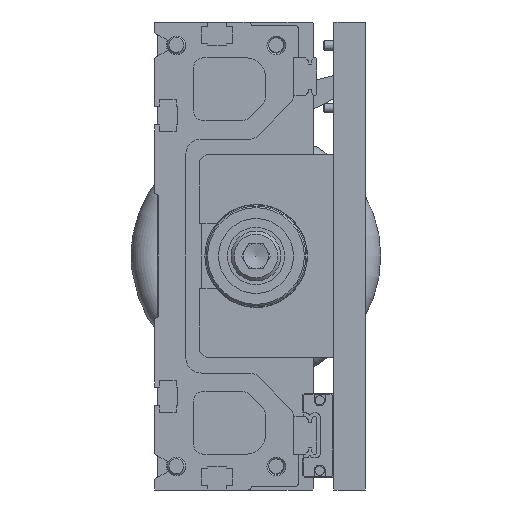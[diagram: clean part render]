
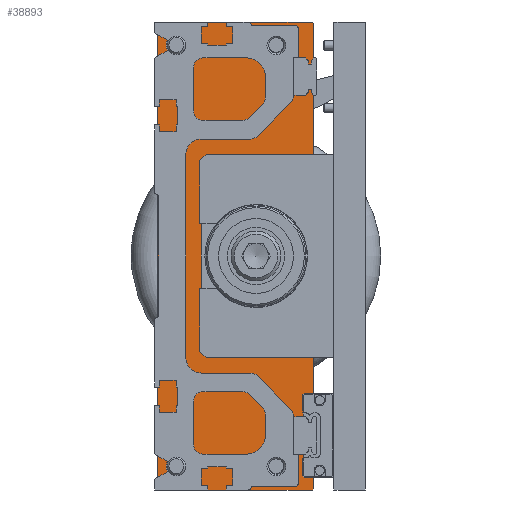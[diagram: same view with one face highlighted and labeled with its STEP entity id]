
A CAD part, front view. The second image highlights one B-rep face of the part: STEP entity #38893.
In plain terms, the highlighted planar face has unit normal (0, -1, 0).
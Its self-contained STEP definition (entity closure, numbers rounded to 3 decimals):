
#38536=CARTESIAN_POINT('',(50.5,85.0,75.0));
#38537=VERTEX_POINT('',#38536);
#38538=CARTESIAN_POINT('',(1.5,85.0,75.0));
#38539=VERTEX_POINT('',#38538);
#38540=CARTESIAN_POINT('',(50.5,85.0,75.0));
#38541=DIRECTION('',(-1.0,0.0,0.0));
#38542=VECTOR('',#38541,1.0);
#38543=LINE('',#38540,#38542);
#38544=EDGE_CURVE('',#38537,#38539,#38543,.T.);
#38576=CARTESIAN_POINT('',(1.0,85.0,74.5));
#38577=VERTEX_POINT('',#38576);
#38578=CARTESIAN_POINT('',(1.5,85.0,75.0));
#38579=DIRECTION('',(-0.707,0.0,-0.707));
#38580=VECTOR('',#38579,1.);
#38581=LINE('',#38578,#38580);
#38582=EDGE_CURVE('',#38539,#38577,#38581,.T.);
#38607=CARTESIAN_POINT('',(51.,85.0,-74.5));
#38608=VERTEX_POINT('',#38607);
#38609=CARTESIAN_POINT('',(51.,85.0,74.5));
#38610=VERTEX_POINT('',#38609);
#38611=CARTESIAN_POINT('',(51.,85.0,-74.5));
#38612=DIRECTION('',(0.0,0.0,1.0));
#38613=VECTOR('',#38612,1.0);
#38614=LINE('',#38611,#38613);
#38615=EDGE_CURVE('',#38608,#38610,#38614,.T.);
#38647=CARTESIAN_POINT('',(51.,85.0,74.5));
#38648=DIRECTION('',(-0.707,0.0,0.707));
#38649=VECTOR('',#38648,1.);
#38650=LINE('',#38647,#38649);
#38651=EDGE_CURVE('',#38610,#38537,#38650,.T.);
#38669=CARTESIAN_POINT('',(50.5,85.0,-75.0));
#38670=VERTEX_POINT('',#38669);
#38671=CARTESIAN_POINT('',(50.5,85.0,-75.0));
#38672=DIRECTION('',(0.707,0.0,0.707));
#38673=VECTOR('',#38672,1.);
#38674=LINE('',#38671,#38673);
#38675=EDGE_CURVE('',#38670,#38608,#38674,.T.);
#38700=CARTESIAN_POINT('',(1.5,85.0,-75.0));
#38701=VERTEX_POINT('',#38700);
#38702=CARTESIAN_POINT('',(1.5,85.0,-75.0));
#38703=DIRECTION('',(1.0,0.0,0.0));
#38704=VECTOR('',#38703,1.0);
#38705=LINE('',#38702,#38704);
#38706=EDGE_CURVE('',#38701,#38670,#38705,.T.);
#38731=CARTESIAN_POINT('',(1.0,85.0,-74.5));
#38732=VERTEX_POINT('',#38731);
#38733=CARTESIAN_POINT('',(1.0,85.0,-74.5));
#38734=DIRECTION('',(0.707,0.0,-0.707));
#38735=VECTOR('',#38734,1.);
#38736=LINE('',#38733,#38735);
#38737=EDGE_CURVE('',#38732,#38701,#38736,.T.);
#38762=CARTESIAN_POINT('',(1.0,85.0,74.5));
#38763=DIRECTION('',(0.0,0.0,-1.0));
#38764=VECTOR('',#38763,1.0);
#38765=LINE('',#38762,#38764);
#38766=EDGE_CURVE('',#38577,#38732,#38765,.T.);
#38779=CARTESIAN_POINT('',(-1.5,85.0,82.5));
#38780=DIRECTION('',(0.0,-1.0,0.0));
#38781=DIRECTION('',(0.0,0.0,-1.0));
#38782=AXIS2_PLACEMENT_3D('',#38779,#38780,#38781);
#38783=PLANE('',#38782);
#38784=ORIENTED_EDGE('',*,*,#38544,.T.);
#38785=ORIENTED_EDGE('',*,*,#38582,.T.);
#38786=ORIENTED_EDGE('',*,*,#38766,.T.);
#38787=ORIENTED_EDGE('',*,*,#38737,.T.);
#38788=ORIENTED_EDGE('',*,*,#38706,.T.);
#38789=ORIENTED_EDGE('',*,*,#38675,.T.);
#38790=ORIENTED_EDGE('',*,*,#38615,.T.);
#38791=ORIENTED_EDGE('',*,*,#38651,.T.);
#38792=EDGE_LOOP('',(#38784,#38785,#38786,#38787,#38788,#38789,#38790,#38791));
#38793=FACE_OUTER_BOUND('',#38792,.T.);
#38794=CARTESIAN_POINT('',(7.,85.0,-70.65));
#38795=VERTEX_POINT('',#38794);
#38796=CARTESIAN_POINT('',(7.,85.,-67.35));
#38797=DIRECTION('',(0.,-1.0,0.));
#38798=DIRECTION('',(0.0,0.,-1.0));
#38799=AXIS2_PLACEMENT_3D('',#38796,#38797,#38798);
#38800=CIRCLE('',#38799,3.3);
#38801=EDGE_CURVE('',#38795,#38795,#38800,.T.);
#38802=ORIENTED_EDGE('',*,*,#38801,.F.);
#38803=EDGE_LOOP('',(#38802));
#38804=FACE_BOUND('',#38803,.T.);
#38805=CARTESIAN_POINT('',(39.0,85.0,-70.65));
#38806=VERTEX_POINT('',#38805);
#38807=CARTESIAN_POINT('',(39.,85.,-67.35));
#38808=DIRECTION('',(0.,-1.0,0.));
#38809=DIRECTION('',(0.0,0.,-1.0));
#38810=AXIS2_PLACEMENT_3D('',#38807,#38808,#38809);
#38811=CIRCLE('',#38810,3.3);
#38812=EDGE_CURVE('',#38806,#38806,#38811,.T.);
#38813=ORIENTED_EDGE('',*,*,#38812,.F.);
#38814=EDGE_LOOP('',(#38813));
#38815=FACE_BOUND('',#38814,.T.);
#38816=CARTESIAN_POINT('',(7.0,85.0,64.35));
#38817=VERTEX_POINT('',#38816);
#38818=CARTESIAN_POINT('',(7.,85.,67.65));
#38819=DIRECTION('',(0.,-1.0,0.));
#38820=DIRECTION('',(0.,0.,-1.0));
#38821=AXIS2_PLACEMENT_3D('',#38818,#38819,#38820);
#38822=CIRCLE('',#38821,3.3);
#38823=EDGE_CURVE('',#38817,#38817,#38822,.T.);
#38824=ORIENTED_EDGE('',*,*,#38823,.F.);
#38825=EDGE_LOOP('',(#38824));
#38826=FACE_BOUND('',#38825,.T.);
#38827=CARTESIAN_POINT('',(46.0,85.0,-21.0));
#38828=VERTEX_POINT('',#38827);
#38829=CARTESIAN_POINT('',(46.,85.0,-18.5));
#38830=DIRECTION('',(0.0,-1.0,0.0));
#38831=DIRECTION('',(0.,0.0,-1.0));
#38832=AXIS2_PLACEMENT_3D('',#38829,#38830,#38831);
#38833=CIRCLE('',#38832,2.5);
#38834=EDGE_CURVE('',#38828,#38828,#38833,.T.);
#38835=ORIENTED_EDGE('',*,*,#38834,.F.);
#38836=EDGE_LOOP('',(#38835));
#38837=FACE_BOUND('',#38836,.T.);
#38838=CARTESIAN_POINT('',(19.0,85.0,16.0));
#38839=VERTEX_POINT('',#38838);
#38840=CARTESIAN_POINT('',(19.,85.0,18.5));
#38841=DIRECTION('',(0.0,-1.0,0.0));
#38842=DIRECTION('',(0.,0.0,-1.0));
#38843=AXIS2_PLACEMENT_3D('',#38840,#38841,#38842);
#38844=CIRCLE('',#38843,2.5);
#38845=EDGE_CURVE('',#38839,#38839,#38844,.T.);
#38846=ORIENTED_EDGE('',*,*,#38845,.F.);
#38847=EDGE_LOOP('',(#38846));
#38848=FACE_BOUND('',#38847,.T.);
#38849=CARTESIAN_POINT('',(19.0,85.0,-21.0));
#38850=VERTEX_POINT('',#38849);
#38851=CARTESIAN_POINT('',(19.,85.0,-18.5));
#38852=DIRECTION('',(0.0,-1.0,0.0));
#38853=DIRECTION('',(0.,0.0,-1.0));
#38854=AXIS2_PLACEMENT_3D('',#38851,#38852,#38853);
#38855=CIRCLE('',#38854,2.5);
#38856=EDGE_CURVE('',#38850,#38850,#38855,.T.);
#38857=ORIENTED_EDGE('',*,*,#38856,.F.);
#38858=EDGE_LOOP('',(#38857));
#38859=FACE_BOUND('',#38858,.T.);
#38860=CARTESIAN_POINT('',(46.0,85.0,16.0));
#38861=VERTEX_POINT('',#38860);
#38862=CARTESIAN_POINT('',(46.,85.0,18.5));
#38863=DIRECTION('',(0.0,-1.0,0.0));
#38864=DIRECTION('',(0.,0.0,-1.0));
#38865=AXIS2_PLACEMENT_3D('',#38862,#38863,#38864);
#38866=CIRCLE('',#38865,2.5);
#38867=EDGE_CURVE('',#38861,#38861,#38866,.T.);
#38868=ORIENTED_EDGE('',*,*,#38867,.F.);
#38869=EDGE_LOOP('',(#38868));
#38870=FACE_BOUND('',#38869,.T.);
#38871=CARTESIAN_POINT('',(32.5,85.0,-12.5));
#38872=VERTEX_POINT('',#38871);
#38873=CARTESIAN_POINT('',(32.5,85.0,0.));
#38874=DIRECTION('',(0.0,-1.0,0.0));
#38875=DIRECTION('',(0.,0.0,-1.0));
#38876=AXIS2_PLACEMENT_3D('',#38873,#38874,#38875);
#38877=CIRCLE('',#38876,12.5);
#38878=EDGE_CURVE('',#38872,#38872,#38877,.T.);
#38879=ORIENTED_EDGE('',*,*,#38878,.F.);
#38880=EDGE_LOOP('',(#38879));
#38881=FACE_BOUND('',#38880,.T.);
#38882=CARTESIAN_POINT('',(39.0,85.0,64.35));
#38883=VERTEX_POINT('',#38882);
#38884=CARTESIAN_POINT('',(39.,85.,67.65));
#38885=DIRECTION('',(0.,-1.0,0.));
#38886=DIRECTION('',(0.,0.,-1.0));
#38887=AXIS2_PLACEMENT_3D('',#38884,#38885,#38886);
#38888=CIRCLE('',#38887,3.3);
#38889=EDGE_CURVE('',#38883,#38883,#38888,.T.);
#38890=ORIENTED_EDGE('',*,*,#38889,.F.);
#38891=EDGE_LOOP('',(#38890));
#38892=FACE_BOUND('',#38891,.T.);
#38893=ADVANCED_FACE('',(#38793,#38804,#38815,#38826,#38837,#38848,#38859,#38870,#38881,#38892),#38783,.T.);
